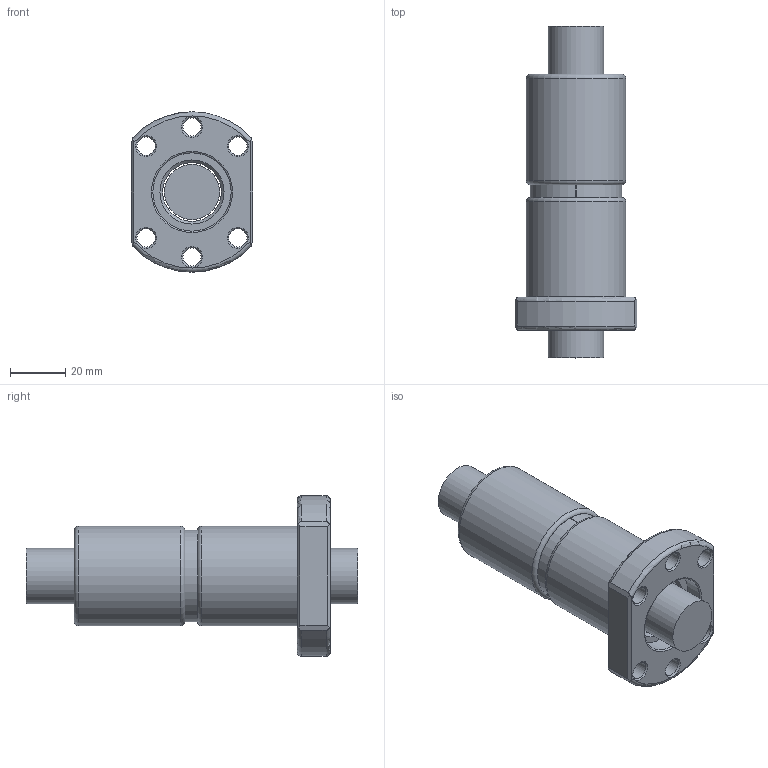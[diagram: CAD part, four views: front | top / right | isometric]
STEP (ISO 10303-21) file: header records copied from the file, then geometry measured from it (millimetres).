
FILE_DESCRIPTION(/* description */ (''),/* implementation_level */ '2;1');
FILE_NAME(/* name */ '2005.prt.step',/* time_stamp */ '2008-12-05T09:27:14+08:00',/* author */ (''),/* organization */ (''),/* preprocessor_version */ 'ST-DEVELOPER v11',/* originating_system */ 'SIEMENS UGS NX 6.0',/* authorisation */ '');
FILE_SCHEMA (('AUTOMOTIVE_DESIGN { 1 0 10303 214 1 1 1 1 }'));
Length unit declared in the file: millimetre
Products named in the file (1): 2005
Bounding box: 44 x 120 x 58 mm (x, y, z)
Volume: 106357.6 mm3; surface area: 32400.2 mm2
Topology: 5 solids, 5 shells, 77 faces, 170 edges, 108 vertices
Faces by surface type: plane 29, cylinder 21, cone 16, torus 11
Full cylindrical faces by diameter (mm): 6.6 x6, 19.95 x1, 21.2 x2, 24 x2, 28.3 x2, 36 x2
Entity records: 2098 total; most frequent: CARTESIAN_POINT 484, DIRECTION 334, ORIENTED_EDGE 250, AXIS2_PLACEMENT_3D 147, EDGE_LOOP 136, EDGE_CURVE 125, FACE_BOUND 106, VERTEX_POINT 101
